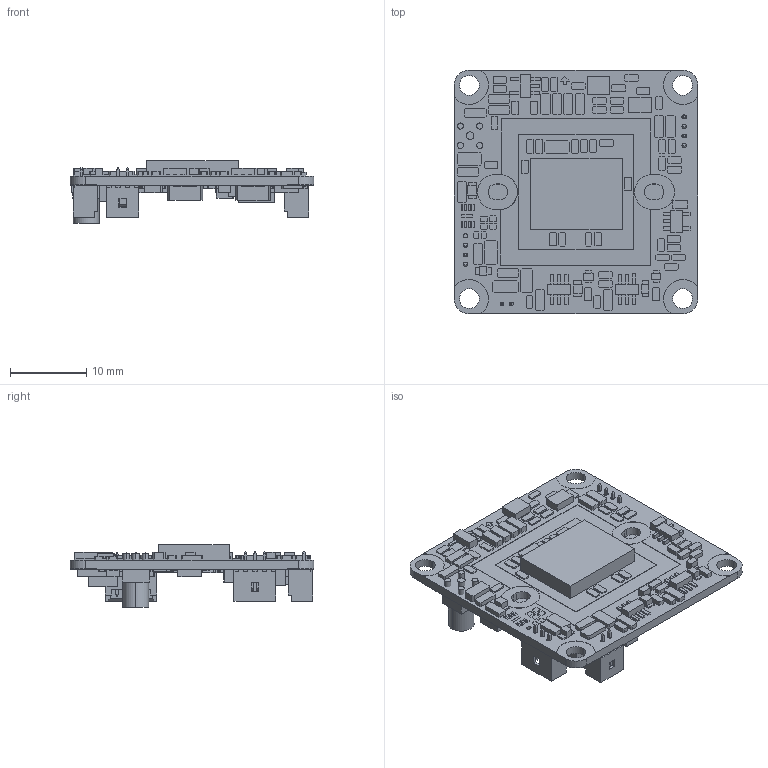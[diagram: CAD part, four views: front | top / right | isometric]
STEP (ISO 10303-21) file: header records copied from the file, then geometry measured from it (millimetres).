
FILE_DESCRIPTION((''),'2;1');
FILE_NAME('202_MODULE_ASM','2024-12-19T',('MEC-1'),(''),'Videology','Videology, 2010180','');
FILE_SCHEMA(('CONFIG_CONTROL_DESIGN'));
Products named in the file (8): 202; 202_1; 202_2; HD_CON; 530470310; 530470410; 53047-0210; 202-ESHSAHCV-662-xyzq_revA
Assembly tree (7 placements, depth 2):
  202-ESHSAHCV-662-xyzq_revA
    202
    202_1
    202_2
    HD_CON
    530470310
    530470410
    53047-0210
Bounding box: 32 x 32 x 8.2 mm (x, y, z)
Volume: 2056.1 mm3; surface area: 4615.7 mm2
Topology: 5 solids, 96 shells, 2478 faces, 6345 edges, 4199 vertices
Faces by surface type: plane 2396, cylinder 82
Entity records: 72682 total; most frequent: CARTESIAN_POINT 12933, ORIENTED_EDGE 12682, DIRECTION 11282, EDGE_CURVE 6341, VECTOR 6174, LINE 6174, VERTEX_POINT 4197, EDGE_LOOP 2636
